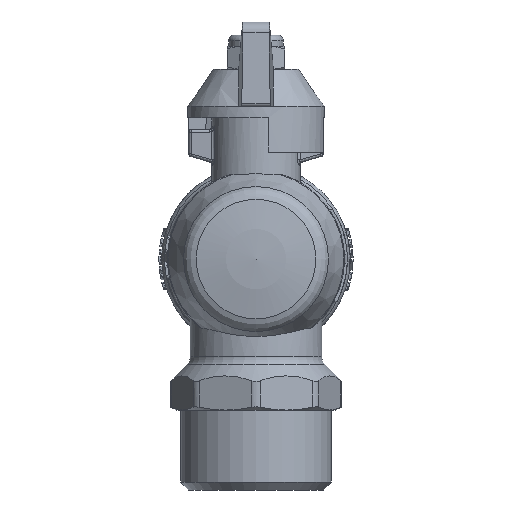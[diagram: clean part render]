
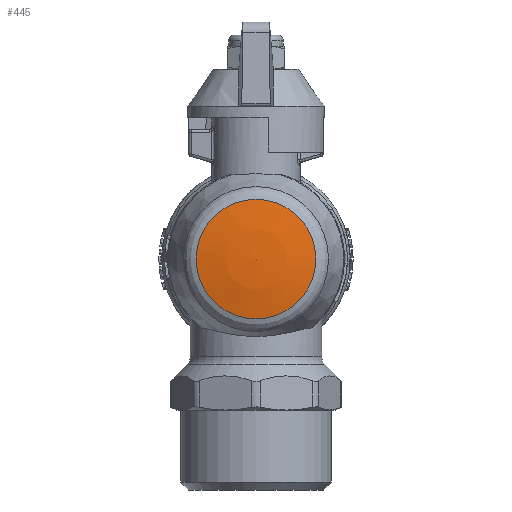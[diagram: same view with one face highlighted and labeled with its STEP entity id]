
A CAD part, front view. The second image highlights one B-rep face of the part: STEP entity #445.
In plain terms, the highlighted spherical face has radius 53 mm.
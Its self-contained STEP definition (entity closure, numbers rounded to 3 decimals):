
#445=ADVANCED_FACE('',(#4066),#4068,.T.);
#4066=FACE_OUTER_BOUND('',#4067,.T.);
#4067=EDGE_LOOP('',(#9269));
#4068=SPHERICAL_SURFACE('',#4069,53.);
#4069=AXIS2_PLACEMENT_3D('',#4070,#4071,#4072);
#4070=CARTESIAN_POINT('',(0.,36.2,0.));
#4071=DIRECTION('',(0.,1.,0.));
#4072=DIRECTION('',(0.,0.,1.));
#9269=ORIENTED_EDGE('',*,*,#12586,.F.);
#12586=EDGE_CURVE('',#15326,#15326,#15327,.T.);
#15326=VERTEX_POINT('',#25832);
#15327=CIRCLE('',#25833,10.475);
#25832=CARTESIAN_POINT('',(0.,-15.755,10.475));
#25833=AXIS2_PLACEMENT_3D('',#25834,#25835,#25836);
#25834=CARTESIAN_POINT('',(0.,-15.755,0.));
#25835=DIRECTION('',(0.,1.,0.));
#25836=DIRECTION('',(0.,0.,1.));
